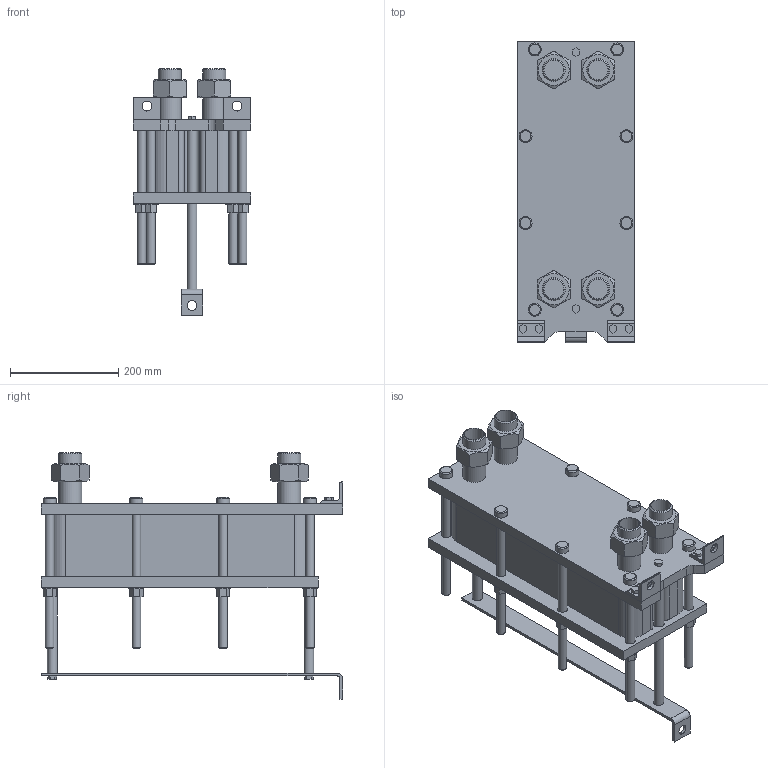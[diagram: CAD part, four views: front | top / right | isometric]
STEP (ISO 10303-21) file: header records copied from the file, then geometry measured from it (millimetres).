
FILE_DESCRIPTION(/* description */ (''),/* implementation_level */ '2;1');
FILE_NAME(/* name */ 'C:\Users\zhuro\Desktop\ENCO\TO\ЭН-004\ЭН-0,5-004-37-1.stp',/* time_stamp */ '2022-06-06T10:46:05+03:00',/* author */ ('zhuro'),/* organization */ (''),/* preprocessor_version */ 'ST-DEVELOPER v18.1',/* originating_system */ 'Autodesk Inventor 2022',/* authorisation */ '');
FILE_SCHEMA (('AUTOMOTIVE_DESIGN { 1 0 10303 214 3 1 1 }'));
Length unit declared in the file: millimetre
Products named in the file (1): ЭН-0,5-004-37-1
Bounding box: 216 x 555 x 454.6 mm (x, y, z)
Volume: 14135421.8 mm3; surface area: 1207388.5 mm2
Topology: 40 solids, 40 shells, 403 faces, 865 edges, 574 vertices
Faces by surface type: plane 272, cylinder 103, cone 28
Full cylindrical faces by diameter (mm): 10 x4, 16 x16, 18 x29, 20 x2, 24 x8, 28 x8, 36.3 x5, 42.3 x9
Entity records: 11137 total; most frequent: CARTESIAN_POINT 1939, DIRECTION 1879, ORIENTED_EDGE 1730, EDGE_CURVE 865, AXIS2_PLACEMENT_3D 658, VERTEX_POINT 574, LINE 563, VECTOR 563
